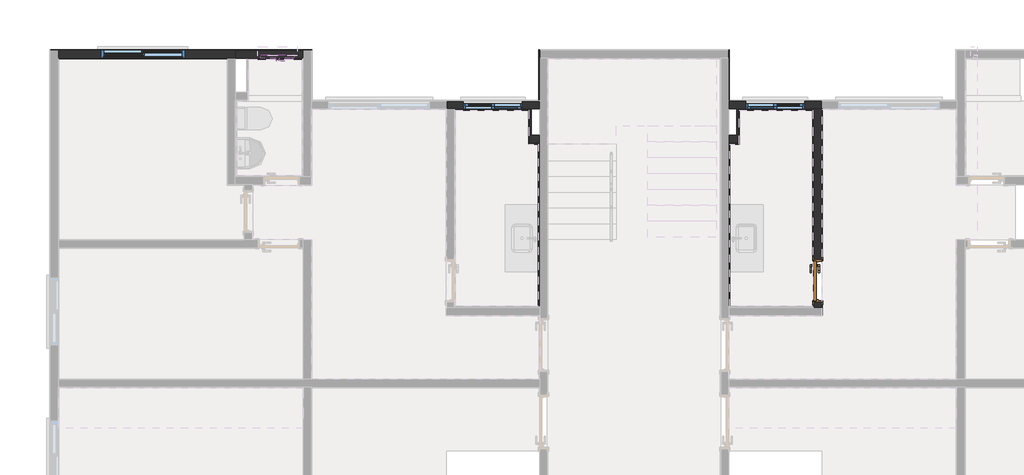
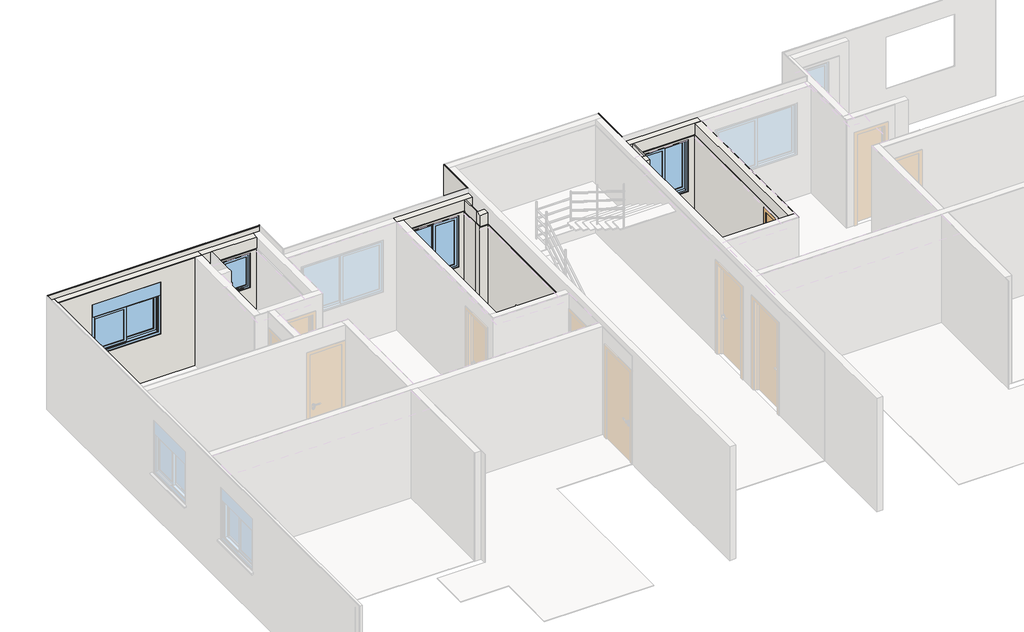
# One storey, part 6 of 11: 26 walls, 4 windows, 1 door.
"""IFC4 building model written with IfcOpenShell, lengths in millimetres."""

from ifc_helpers import new_model, si_unit, frame, origin, origin_with_axes, place, context, project, spatial, polyline, outline, extrude, faceted_brep, transform, mapped, element, save
from components import porta_de_madeira_interna_70_x_210_porta_de_madeira_interna_f307109d, window_105x120_428ac20c, window_105x120_f2d7c1f1, window_150x120_d34a449e, window_60x80_6d4336cf

model = new_model("IFC4")

# Units and contexts
model_context = context("Model", 3, world=origin())
ifc_project = project(units=[si_unit("LENGTHUNIT", "METRE", prefix="MILLI")], contexts=[model_context])

# Site, building, storey
site = spatial("IfcSite", under=ifc_project)
building = spatial("IfcBuilding", under=site)
storey = spatial("IfcBuildingStorey", under=building, Name="Térreo", Elevation=0.0)

# Door
placement = place(None, origin())
porta_de_madeira_interna_70_x_210_porta_de_madeira_interna_shape = porta_de_madeira_interna_70_x_210_porta_de_madeira_interna_f307109d(model_context)
element("IfcDoor", 1, ObjectType="Porta de Madeira Interna 70 x 210 : Porta de Madeira Interna 70 x 210", at=placement, inside=storey, context=model_context, shape_type="MappedRepresentation", body=[
    mapped(porta_de_madeira_interna_70_x_210_porta_de_madeira_interna_shape, transform((13673.8210213, 8221.3603139, 0.0), x_axis=(0.0, -1.0, 0.0), y_axis=(1.0, 0.0, 0.0), z_axis=(0.0, 0.0, 1.0))),
])

# Walls
element("IfcWall", 2, ObjectType="Alvenaria Estrutural", at=placement, inside=storey, context=model_context, shape_type="Brep", body=[
    faceted_brep([(169.9991825, 12180.0252435, 0.0), (175.9991825, 12180.0252435, 0.0), (3179.9977061, 12180.0252435, 0.0), (3319.9977061, 12180.0252435, 0.0), (3319.9977061, 12180.0252435, 2510.0), (3179.9977061, 12180.0252435, 2510.0), (175.9991825, 12180.0252435, 2510.0), (169.9991825, 12180.0252435, 2510.0), (2424.9984443, 12180.0252435, 2200.0), (2424.9984443, 12180.0252435, 1000.0), (924.9984443, 12180.0252435, 1000.0), (924.9984443, 12180.0252435, 2200.0), (3319.9977061, 12320.0252435, 0.0), (169.9991825, 12320.0252435, 0.0), (169.9991825, 12320.0252435, 2510.0), (3319.9977061, 12320.0252435, 2510.0), (2424.9984443, 12320.0252435, 1000.0), (2424.9984443, 12320.0252435, 2200.0), (924.9984443, 12320.0252435, 2200.0), (924.9984443, 12320.0252435, 1000.0), (874.9984443, 12320.0252435, 1000.0), (874.9984443, 12320.0252435, 951.3083694), (2474.9984443, 12320.0252435, 951.3083694), (2474.9984443, 12320.0252435, 1000.0), (2424.9984443, 12222.5252435, 1000.0), (924.9984443, 12222.5252435, 1000.0), (874.9984443, 12222.5252435, 1000.0), (874.9984443, 12222.5252435, 972.0326341), (2474.9984443, 12222.5252435, 972.0326341), (2474.9984443, 12222.5252435, 1000.0)], [[[0, 1, 2, 3, 4, 5, 6, 7], [8, 9, 10, 11]], [[12, 13, 14, 15], [16, 17, 18, 19, 20, 21, 22, 23]], [[1, 0, 13, 12, 3, 2]], [[5, 4, 15, 14, 7, 6]], [[9, 8, 17, 16, 24]], [[8, 11, 18, 17]], [[11, 10, 25, 19, 18]], [[10, 9, 24, 25]], [[21, 20, 26, 27]], [[23, 22, 28, 29]], [[25, 24, 29, 28, 27, 26]], [[20, 19, 25, 26]], [[22, 21, 27, 28]], [[4, 3, 12, 15]], [[0, 7, 14, 13]], [[16, 23, 29, 24]]]),
    faceted_brep([(175.9991825, 12180.0252435, 0.0), (169.9991825, 12180.0252435, 0.0), (169.9991825, 12320.0252435, 0.0), (3319.9977061, 12320.0252435, 0.0), (3319.9977061, 12180.0252435, 0.0), (3179.9977061, 12180.0252435, 0.0), (3179.9977061, 12180.0252435, 2510.0), (3319.9977061, 12180.0252435, 2510.0), (3319.9977061, 12320.0252435, 2510.0), (169.9991825, 12320.0252435, 2510.0), (169.9991825, 12180.0252435, 2510.0), (175.9991825, 12180.0252435, 2510.0), (2424.9984443, 12180.0252435, 1000.0), (2424.9984443, 12180.0252435, 2200.0), (2424.9984443, 12320.0252435, 2200.0), (2424.9984443, 12320.0252435, 1000.0), (2424.9984443, 12222.5252435, 1000.0), (924.9984443, 12180.0252435, 2200.0), (924.9984443, 12320.0252435, 2200.0), (924.9984443, 12180.0252435, 1000.0), (924.9984443, 12222.5252435, 1000.0), (924.9984443, 12320.0252435, 1000.0), (874.9984443, 12320.0252435, 951.3083694), (874.9984443, 12320.0252435, 1000.0), (874.9984443, 12222.5252435, 1000.0), (874.9984443, 12222.5252435, 972.0326341), (2474.9984443, 12320.0252435, 1000.0), (2474.9984443, 12320.0252435, 951.3083694), (2474.9984443, 12222.5252435, 972.0326341), (2474.9984443, 12222.5252435, 1000.0)], [[[0, 1, 2, 3, 4, 5]], [[6, 7, 8, 9, 10, 11]], [[12, 13, 14, 15, 16]], [[13, 17, 18, 14]], [[17, 19, 20, 21, 18]], [[19, 12, 16, 20]], [[22, 23, 24, 25]], [[26, 27, 28, 29]], [[20, 16, 29, 28, 25, 24]], [[23, 21, 20, 24]], [[27, 22, 25, 28]], [[15, 26, 29, 16]], [[3, 2, 9, 8], [15, 14, 18, 21, 23, 22, 27, 26]], [[1, 0, 5, 4, 7, 6, 11, 10], [13, 12, 19, 17]], [[7, 4, 3, 8]], [[1, 10, 9, 2]]]),
])
element("IfcWall", 3, ObjectType="Alvenaria Estrutural", at=placement, inside=storey, context=model_context, shape_type="Brep", body=[
    faceted_brep([(3319.9977061, 12180.025593, 0.0), (3516.99398, 12180.025593, 0.0), (3539.99398, 12180.025593, 0.0), (4509.9990083, 12180.025593, 0.0), (4529.9986472, 12180.025593, 0.0), (4529.9986472, 12180.025593, 2250.0), (4529.9986472, 12180.025593, 2510.0), (3539.99398, 12180.025593, 2510.0), (3516.99398, 12180.025593, 2510.0), (3319.9977061, 12180.025593, 2510.0), (4369.9986472, 12180.025593, 2200.0), (4369.9986472, 12180.025593, 1400.0), (3769.9986472, 12180.025593, 1400.0), (3769.9986472, 12180.025593, 2200.0), (4529.9986472, 12320.025593, 0.0), (3319.9977061, 12320.025593, 0.0), (3319.9977061, 12320.025593, 2510.0), (4529.9986472, 12320.025593, 2510.0), (3719.9986472, 12320.025593, 1351.3083694), (4419.9986472, 12320.025593, 1351.3083694), (4419.9986472, 12320.025593, 1400.0), (4369.9986472, 12320.025593, 1400.0), (4369.9986472, 12320.025593, 2200.0), (3769.9986472, 12320.025593, 2200.0), (3769.9986472, 12320.025593, 1400.0), (3719.9986472, 12320.025593, 1400.0), (3719.9986472, 12222.525593, 1400.0), (3719.9986472, 12222.525593, 1372.0326341), (4419.9986472, 12222.525593, 1372.0326341), (4419.9986472, 12222.525593, 1400.0), (3769.9986472, 12222.525593, 1400.0), (4369.9986472, 12222.525593, 1400.0)], [[[0, 1, 2, 3, 4, 5, 6, 7, 8, 9], [10, 11, 12, 13]], [[14, 15, 16, 17], [18, 19, 20, 21, 22, 23, 24, 25]], [[1, 0, 15, 14, 4, 3, 2]], [[7, 6, 17, 16, 9, 8]], [[18, 25, 26, 27]], [[20, 19, 28, 29]], [[27, 26, 30, 31, 29, 28]], [[25, 24, 30, 26]], [[19, 18, 27, 28]], [[11, 10, 22, 21, 31]], [[10, 13, 23, 22]], [[13, 12, 30, 24, 23]], [[12, 11, 31, 30]], [[0, 9, 16, 15]], [[5, 4, 14, 17, 6]], [[21, 20, 29, 31]]]),
    faceted_brep([(3516.99398, 12180.025593, 0.0), (3319.9977061, 12180.025593, 0.0), (3319.9977061, 12320.025593, 0.0), (4529.9986472, 12320.025593, 0.0), (4529.9986472, 12180.025593, 0.0), (4509.9990083, 12180.025593, 0.0), (3539.99398, 12180.025593, 0.0), (3539.99398, 12180.025593, 2510.0), (4529.9986472, 12180.025593, 2510.0), (4529.9986472, 12320.025593, 2510.0), (3319.9977061, 12320.025593, 2510.0), (3319.9977061, 12180.025593, 2510.0), (3516.99398, 12180.025593, 2510.0), (3719.9986472, 12320.025593, 1351.3083694), (3719.9986472, 12320.025593, 1400.0), (3719.9986472, 12222.525593, 1400.0), (3719.9986472, 12222.525593, 1372.0326341), (4419.9986472, 12320.025593, 1400.0), (4419.9986472, 12320.025593, 1351.3083694), (4419.9986472, 12222.525593, 1372.0326341), (4419.9986472, 12222.525593, 1400.0), (3769.9986472, 12222.525593, 1400.0), (4369.9986472, 12222.525593, 1400.0), (3769.9986472, 12320.025593, 1400.0), (4369.9986472, 12180.025593, 1400.0), (4369.9986472, 12180.025593, 2200.0), (4369.9986472, 12320.025593, 2200.0), (4369.9986472, 12320.025593, 1400.0), (3769.9986472, 12180.025593, 2200.0), (3769.9986472, 12320.025593, 2200.0), (3769.9986472, 12180.025593, 1400.0), (4529.9986472, 12180.025593, 2250.0)], [[[0, 1, 2, 3, 4, 5, 6]], [[7, 8, 9, 10, 11, 12]], [[13, 14, 15, 16]], [[17, 18, 19, 20]], [[16, 15, 21, 22, 20, 19]], [[14, 23, 21, 15]], [[18, 13, 16, 19]], [[24, 25, 26, 27, 22]], [[25, 28, 29, 26]], [[28, 30, 21, 23, 29]], [[30, 24, 22, 21]], [[27, 17, 20, 22]], [[1, 0, 6, 5, 4, 31, 8, 7, 12, 11], [25, 24, 30, 28]], [[3, 2, 10, 9], [13, 18, 17, 27, 26, 29, 23, 14]], [[1, 11, 10, 2]], [[31, 4, 3, 9, 8]]]),
])
element("IfcWall", 4, ObjectType="Alvenaria Estrutural", at=placement, inside=storey, context=model_context, shape_type="Brep", body=[
    faceted_brep([(7079.9990083, 11280.0223004, 0.0), (7212.9986861, 11280.0223004, 0.0), (7233.0017324, 11280.0223004, 0.0), (8556.99867, 11280.0223004, 0.0), (8729.9963008, 11280.0223004, 0.0), (8729.9963008, 11280.0223004, 2510.0), (7212.9986861, 11280.0223004, 2510.0), (7079.9990083, 11280.0223004, 2510.0), (8424.99921, 11280.0223004, 2200.0), (8424.99921, 11280.0223004, 1000.0), (7374.99921, 11280.0223004, 1000.0), (7374.99921, 11280.0223004, 2200.0), (8729.9963008, 11420.0223004, 0.0), (7079.9990083, 11420.0223004, 0.0), (7079.9990083, 11420.0223004, 2510.0), (8729.9963008, 11420.0223004, 2510.0), (8424.99921, 11420.0223004, 1000.0), (8424.99921, 11420.0223004, 2200.0), (7374.99921, 11420.0223004, 2200.0), (7374.99921, 11420.0223004, 1000.0), (7324.99921, 11420.0223004, 1000.0), (7324.99921, 11420.0223004, 951.3083694), (8474.99921, 11420.0223004, 951.3083694), (8474.99921, 11420.0223004, 1000.0), (8424.99921, 11322.5223004, 1000.0), (7374.99921, 11322.5223004, 1000.0), (7324.99921, 11322.5223004, 1000.0), (7324.99921, 11322.5223004, 972.0326341), (8474.99921, 11322.5223004, 972.0326341), (8474.99921, 11322.5223004, 1000.0)], [[[0, 1, 2, 3, 4, 5, 6, 7], [8, 9, 10, 11]], [[12, 13, 14, 15], [16, 17, 18, 19, 20, 21, 22, 23]], [[1, 0, 13, 12, 4, 3, 2]], [[5, 4, 12, 15]], [[6, 5, 15, 14, 7]], [[0, 7, 14, 13]], [[9, 8, 17, 16, 24]], [[8, 11, 18, 17]], [[11, 10, 25, 19, 18]], [[10, 9, 24, 25]], [[21, 20, 26, 27]], [[23, 22, 28, 29]], [[25, 24, 29, 28, 27, 26]], [[20, 19, 25, 26]], [[22, 21, 27, 28]], [[16, 23, 29, 24]]]),
    faceted_brep([(7212.9986861, 11280.0223004, 0.0), (7079.9990083, 11280.0223004, 0.0), (7079.9990083, 11420.0223004, 0.0), (8729.9963008, 11420.0223004, 0.0), (8729.9963008, 11280.0223004, 0.0), (8556.99867, 11280.0223004, 0.0), (7233.0017324, 11280.0223004, 0.0), (8729.9963008, 11280.0223004, 2510.0), (8729.9963008, 11420.0223004, 2510.0), (7212.9986861, 11280.0223004, 2510.0), (7079.9990083, 11420.0223004, 2510.0), (7079.9990083, 11280.0223004, 2510.0), (8424.99921, 11280.0223004, 1000.0), (8424.99921, 11280.0223004, 2200.0), (8424.99921, 11420.0223004, 2200.0), (8424.99921, 11420.0223004, 1000.0), (8424.99921, 11322.5223004, 1000.0), (7374.99921, 11280.0223004, 2200.0), (7374.99921, 11420.0223004, 2200.0), (7374.99921, 11280.0223004, 1000.0), (7374.99921, 11322.5223004, 1000.0), (7374.99921, 11420.0223004, 1000.0), (7324.99921, 11420.0223004, 951.3083694), (7324.99921, 11420.0223004, 1000.0), (7324.99921, 11322.5223004, 1000.0), (7324.99921, 11322.5223004, 972.0326341), (8474.99921, 11420.0223004, 1000.0), (8474.99921, 11420.0223004, 951.3083694), (8474.99921, 11322.5223004, 972.0326341), (8474.99921, 11322.5223004, 1000.0)], [[[0, 1, 2, 3, 4, 5, 6]], [[7, 4, 3, 8]], [[9, 7, 8, 10, 11]], [[1, 11, 10, 2]], [[12, 13, 14, 15, 16]], [[13, 17, 18, 14]], [[17, 19, 20, 21, 18]], [[19, 12, 16, 20]], [[22, 23, 24, 25]], [[26, 27, 28, 29]], [[20, 16, 29, 28, 25, 24]], [[23, 21, 20, 24]], [[27, 22, 25, 28]], [[15, 26, 29, 16]], [[1, 0, 6, 5, 4, 7, 9, 11], [13, 12, 19, 17]], [[3, 2, 10, 8], [15, 14, 18, 21, 23, 22, 27, 26]]]),
])
element("IfcWall", 5, ObjectType="Alvenaria Estrutural", at=placement, inside=storey, context=model_context, shape_type="Brep", body=[
    faceted_brep([(8729.9963008, 10815.0073729, 0.0), (8579.99867, 10815.0073729, 0.0), (8556.99867, 10815.0073729, 0.0), (8556.99867, 10815.0073729, 2510.0), (8579.99867, 10815.0073729, 2510.0), (8729.9963008, 10815.0073729, 2510.0), (8729.9963008, 10675.0073729, 0.0), (8729.9963008, 10675.0073729, 2250.0), (8729.9963008, 10675.0073729, 2510.0), (8556.99867, 10675.0073729, 2510.0), (8556.99867, 10675.0073729, 0.0), (8709.9963008, 10675.0073729, 0.0)], [[[0, 1, 2, 3, 4, 5]], [[6, 7, 8, 9, 10, 11]], [[1, 0, 6, 11, 10, 2]], [[4, 3, 9, 8, 5]], [[3, 2, 10, 9]], [[0, 5, 8, 7, 6]]]),
    faceted_brep([(8729.9963008, 10815.0073729, 0.0), (8579.99867, 10815.0073729, 0.0), (8556.99867, 10815.0073729, 0.0), (8556.99867, 10815.0073729, 2510.0), (8579.99867, 10815.0073729, 2510.0), (8729.9963008, 10815.0073729, 2510.0), (8729.9963008, 10675.0073729, 0.0), (8709.9963008, 10675.0073729, 0.0), (8556.99867, 10675.0073729, 0.0), (8556.99867, 10675.0073729, 2510.0), (8729.9963008, 10675.0073729, 2510.0), (8729.9963008, 10675.0073729, 2250.0)], [[[0, 1, 2, 3, 4, 5]], [[1, 0, 6, 7, 8, 2]], [[4, 3, 9, 10, 5]], [[6, 11, 10, 9, 8, 7]], [[3, 2, 8, 9]], [[0, 5, 10, 11, 6]]]),
])
element("IfcWall", 6, ObjectType="Alvenaria Estrutural", at=placement, inside=storey, context=model_context, shape_type="Brep", body=[
    faceted_brep([(13739.9956991, 11420.0223004, 0.0), (12089.9984066, 11420.0223004, 0.0), (12089.9984066, 11420.0223004, 2510.0), (13739.9956991, 11420.0223004, 2510.0), (12394.9954974, 11420.0223004, 2200.0), (12394.9954974, 11420.0223004, 1000.0), (12344.9954974, 11420.0223004, 1000.0), (12344.9954974, 11420.0223004, 951.3083694), (13494.9954974, 11420.0223004, 951.3083694), (13494.9954974, 11420.0223004, 1000.0), (13444.9954974, 11420.0223004, 1000.0), (13444.9954974, 11420.0223004, 2200.0), (12089.9984066, 11280.0223004, 0.0), (12262.9960374, 11280.0223004, 0.0), (13586.992975, 11280.0223004, 0.0), (13606.9960213, 11280.0223004, 0.0), (13739.9956991, 11280.0223004, 0.0), (13739.9956991, 11280.0223004, 2510.0), (13606.9960213, 11280.0223004, 2510.0), (12089.9984066, 11280.0223004, 2510.0), (12394.9954974, 11280.0223004, 1000.0), (12394.9954974, 11280.0223004, 2200.0), (13444.9954974, 11280.0223004, 2200.0), (13444.9954974, 11280.0223004, 1000.0), (12394.9954974, 11322.5223004, 1000.0), (13444.9954974, 11322.5223004, 1000.0), (13494.9954974, 11322.5223004, 972.0326341), (13494.9954974, 11322.5223004, 1000.0), (12344.9954974, 11322.5223004, 1000.0), (12344.9954974, 11322.5223004, 972.0326341)], [[[0, 1, 2, 3], [4, 5, 6, 7, 8, 9, 10, 11]], [[12, 13, 14, 15, 16, 17, 18, 19], [20, 21, 22, 23]], [[1, 0, 16, 15, 14, 13, 12]], [[2, 1, 12, 19]], [[3, 2, 19, 18, 17]], [[0, 3, 17, 16]], [[5, 4, 21, 20, 24]], [[4, 11, 22, 21]], [[11, 10, 25, 23, 22]], [[20, 23, 25, 24]], [[9, 8, 26, 27]], [[7, 6, 28, 29]], [[24, 25, 27, 26, 29, 28]], [[10, 9, 27, 25]], [[8, 7, 29, 26]], [[6, 5, 24, 28]]]),
    faceted_brep([(12089.9984066, 11420.0223004, 0.0), (13739.9956991, 11420.0223004, 0.0), (13739.9956991, 11280.0223004, 0.0), (13606.9960213, 11280.0223004, 0.0), (13586.992975, 11280.0223004, 0.0), (12262.9960374, 11280.0223004, 0.0), (12089.9984066, 11280.0223004, 0.0), (12089.9984066, 11420.0223004, 2510.0), (12089.9984066, 11280.0223004, 2510.0), (13739.9956991, 11420.0223004, 2510.0), (13606.9960213, 11280.0223004, 2510.0), (13739.9956991, 11280.0223004, 2510.0), (12394.9954974, 11420.0223004, 1000.0), (12394.9954974, 11420.0223004, 2200.0), (12394.9954974, 11280.0223004, 2200.0), (12394.9954974, 11280.0223004, 1000.0), (12394.9954974, 11322.5223004, 1000.0), (13444.9954974, 11420.0223004, 2200.0), (13444.9954974, 11280.0223004, 2200.0), (13444.9954974, 11420.0223004, 1000.0), (13444.9954974, 11322.5223004, 1000.0), (13444.9954974, 11280.0223004, 1000.0), (13494.9954974, 11420.0223004, 1000.0), (13494.9954974, 11420.0223004, 951.3083694), (13494.9954974, 11322.5223004, 972.0326341), (13494.9954974, 11322.5223004, 1000.0), (12344.9954974, 11420.0223004, 951.3083694), (12344.9954974, 11420.0223004, 1000.0), (12344.9954974, 11322.5223004, 1000.0), (12344.9954974, 11322.5223004, 972.0326341)], [[[0, 1, 2, 3, 4, 5, 6]], [[7, 0, 6, 8]], [[9, 7, 8, 10, 11]], [[1, 9, 11, 2]], [[12, 13, 14, 15, 16]], [[13, 17, 18, 14]], [[17, 19, 20, 21, 18]], [[15, 21, 20, 16]], [[22, 23, 24, 25]], [[26, 27, 28, 29]], [[16, 20, 25, 24, 29, 28]], [[19, 22, 25, 20]], [[23, 26, 29, 24]], [[27, 12, 16, 28]], [[1, 0, 7, 9], [13, 12, 27, 26, 23, 22, 19, 17]], [[6, 5, 4, 3, 2, 11, 10, 8], [15, 14, 18, 21]]]),
])
element("IfcWall", 7, ObjectType="Alvenaria Estrutural", at=placement, inside=storey, context=model_context, shape_type="Brep", body=[
    faceted_brep([(12089.9984066, 10675.0073729, 0.0), (12109.9984066, 10675.0073729, 0.0), (12262.9960374, 10675.0073729, 0.0), (12262.9960374, 10675.0073729, 2510.0), (12089.9984066, 10675.0073729, 2510.0), (12089.9984066, 10675.0073729, 2250.0), (12089.9984066, 10815.0073729, 0.0), (12089.9984066, 10815.0073729, 2510.0), (12239.9960374, 10815.0073729, 2510.0), (12262.9960374, 10815.0073729, 2510.0), (12262.9960374, 10815.0073729, 0.0), (12239.9960374, 10815.0073729, 0.0)], [[[0, 1, 2, 3, 4, 5]], [[6, 7, 8, 9, 10, 11]], [[1, 0, 6, 11, 10, 2]], [[4, 3, 9, 8, 7]], [[3, 2, 10, 9]], [[5, 4, 7, 6, 0]]]),
    faceted_brep([(12089.9984066, 10675.0073729, 0.0), (12109.9984066, 10675.0073729, 0.0), (12262.9960374, 10675.0073729, 0.0), (12262.9960374, 10675.0073729, 2510.0), (12089.9984066, 10675.0073729, 2510.0), (12089.9984066, 10675.0073729, 2250.0), (12089.9984066, 10815.0073729, 0.0), (12239.9960374, 10815.0073729, 0.0), (12262.9960374, 10815.0073729, 0.0), (12262.9960374, 10815.0073729, 2510.0), (12239.9960374, 10815.0073729, 2510.0), (12089.9984066, 10815.0073729, 2510.0)], [[[0, 1, 2, 3, 4, 5]], [[1, 0, 6, 7, 8, 2]], [[4, 3, 9, 10, 11]], [[6, 11, 10, 9, 8, 7]], [[3, 2, 8, 9]], [[5, 4, 11, 6, 0]]]),
])
element("IfcWall", 8, ObjectType="Alvenaria Estrutural", at=placement, inside=storey, context=model_context, shape_type="Brep", body=[
    faceted_brep([(13606.9960213, 7746.3603139, 2510.0), (13606.9960213, 11280.0223004, 2510.0), (13606.9960213, 11280.0223004, 2250.0), (13606.9960213, 11280.0223004, 0.0), (13606.9960213, 11260.0223004, 0.0), (13606.9960213, 8596.3603139, 0.0), (13606.9960213, 8596.3603139, 2125.0), (13606.9960213, 7846.3603139, 2125.0), (13606.9960213, 7846.3603139, 0.0), (13606.9960213, 7766.3603139, 0.0), (13606.9960213, 7746.3603139, 0.0), (13606.9960213, 7746.3603139, 2250.0), (13746.9960213, 11280.0223004, 2510.0), (13746.9960213, 11274.0223004, 2510.0), (13746.9960213, 7746.3603139, 2510.0), (13746.9960213, 7746.3603139, 0.0), (13746.9960213, 7846.3603139, 0.0), (13746.9960213, 7846.3603139, 2125.0), (13746.9960213, 8596.3603139, 2125.0), (13746.9960213, 8596.3603139, 0.0), (13746.9960213, 11274.0223004, 0.0), (13746.9960213, 11280.0223004, 0.0), (13739.9956991, 11280.0223004, 0.0), (13739.9956991, 11280.0223004, 2510.0)], [[[0, 1, 2, 3, 4, 5, 6, 7, 8, 9, 10, 11]], [[12, 13, 14, 15, 16, 17, 18, 19, 20, 21]], [[4, 3, 22, 21, 20, 19, 5]], [[1, 0, 14, 13, 12, 23]], [[8, 7, 17, 16]], [[7, 6, 18, 17]], [[6, 5, 19, 18]], [[11, 10, 15, 14, 0]], [[2, 1, 23, 12, 21, 22, 3]], [[9, 8, 16, 15, 10]]]),
])
element("IfcWall", 9, ObjectType="Azulejo", at=placement, inside=storey, context=model_context, shape_type="SweptSolid", body=[
    extrude(outline(polyline([(8709.9963008, 7746.3603139), (8709.9963008, 10675.0073729), (8719.9963008, 10675.0073729), (8719.9963008, 7746.3603139), (8709.9963008, 7746.3603139)])), origin_with_axes(), (0.0, 0.0, 1.0), 2250.0),
    extrude(outline(polyline([(8729.9963008, 10675.0073729), (8729.9963008, 7746.3603139), (8719.9963008, 7746.3603139), (8719.9963008, 10675.0073729), (8729.9963008, 10675.0073729)])), origin_with_axes(), (0.0, 0.0, 1.0), 2250.0),
])
element("IfcWall", 10, ObjectType="Azulejo", at=placement, inside=storey, context=model_context, shape_type="SolidModel", body=[
    extrude(outline(polyline([(8729.9963008, 10655.0073729), (8536.99631, 10655.0073729), (8536.99631, 10665.0073729), (8729.9963008, 10665.0073729), (8729.9963008, 10655.0073729)])), origin_with_axes(), (0.0, 0.0, 1.0), 2250.0),
    faceted_brep([(8546.99631, 10665.0073729, 0.0), (8729.9963008, 10665.0073729, 0.0), (8729.9963008, 10665.0073729, 2250.0), (8546.99631, 10665.0073729, 2250.0), (8546.99631, 10675.0073729, 0.0), (8546.99631, 10675.0073729, 2250.0), (8556.99631, 10675.0073729, 2250.0), (8729.9963008, 10675.0073729, 2250.0), (8729.9963008, 10675.0073729, 0.0), (8556.99631, 10675.0073729, 0.0)], [[[0, 1, 2, 3]], [[4, 5, 6, 7, 8, 9]], [[9, 8, 1, 0, 4]], [[6, 5, 3, 2, 7]], [[8, 7, 2, 1]], [[5, 4, 0, 3]]]),
])
element("IfcWall", 11, ObjectType="Azulejo", at=placement, inside=storey, context=model_context, shape_type="SolidModel", body=[
    faceted_brep([(8536.99631, 11260.0223004, 0.0), (7212.9986861, 11260.0223004, 0.0), (7212.9986861, 11270.0223004, 0.0), (8556.99867, 11270.0223004, 0.0), (8556.99867, 11260.0223004, 0.0), (8546.99631, 11260.0223004, 0.0), (8546.99631, 11260.0223004, 2250.0), (8556.99867, 11260.0223004, 2250.0), (8556.99867, 11270.0223004, 2250.0), (7212.9986861, 11270.0223004, 2250.0), (7212.9986861, 11260.0223004, 2250.0), (8536.99631, 11260.0223004, 2250.0), (8424.99921, 11260.0223004, 1000.0), (8424.99921, 11260.0223004, 2200.0), (8424.99921, 11270.0223004, 2200.0), (8424.99921, 11270.0223004, 1000.0), (7374.99921, 11260.0223004, 2200.0), (7374.99921, 11270.0223004, 2200.0), (7374.99921, 11260.0223004, 1000.0), (7374.99921, 11270.0223004, 1000.0)], [[[0, 1, 2, 3, 4, 5]], [[6, 7, 8, 9, 10, 11]], [[12, 13, 14, 15]], [[13, 16, 17, 14]], [[16, 18, 19, 17]], [[18, 12, 15, 19]], [[1, 10, 9, 2]], [[7, 4, 3, 8]], [[3, 2, 9, 8], [15, 14, 17, 19]], [[1, 0, 5, 4, 7, 6, 11, 10], [12, 18, 16, 13]]]),
    extrude(outline(polyline([(0.0, 7212.9986861), (0.0, 8556.99867), (2250.0, 8556.99867), (2250.0, 7212.9986861), (0.0, 7212.9986861)]), holes=[polyline([(2200.0, 8424.99921), (1000.0, 8424.99921), (1000.0, 7374.99921), (2200.0, 7374.99921), (2200.0, 8424.99921)])]), frame((0.0, 11270.0223004, 0.0), z_axis=(0.0, 1.0, 0.0), x_axis=(0.0, 0.0, 1.0)), (0.0, 0.0, 1.0), 10.0),
])
element("IfcWall", 12, ObjectType="Azulejo", at=placement, inside=storey, context=model_context, shape_type="SweptSolid", body=[
    extrude(outline(polyline([(8536.99631, 10665.0073729), (8536.99631, 10815.0073729), (8546.99631, 10815.0073729), (8546.99631, 10665.0073729), (8536.99631, 10665.0073729)])), origin_with_axes(), (0.0, 0.0, 1.0), 2250.0),
    extrude(outline(polyline([(8556.99631, 10815.0073729), (8556.99631, 10675.0073729), (8546.99631, 10675.0073729), (8546.99631, 10815.0073729), (8556.99631, 10815.0073729)])), origin_with_axes(), (0.0, 0.0, 1.0), 2250.0),
])
element("IfcWall", 13, ObjectType="Azulejo", at=placement, inside=storey, context=model_context, shape_type="SolidModel", body=[
    faceted_brep([(3549.99398, 12160.025593, 0.0), (3539.99398, 12160.025593, 0.0), (3539.99398, 12170.025593, 0.0), (4509.9990083, 12170.025593, 0.0), (4509.9990083, 12160.025593, 0.0), (3549.99398, 12160.025593, 2250.0), (4509.9990083, 12160.025593, 2250.0), (4509.9990083, 12170.025593, 2250.0), (3539.99398, 12170.025593, 2250.0), (3539.99398, 12160.025593, 2250.0), (4369.9986472, 12160.025593, 1400.0), (4369.9986472, 12160.025593, 2200.0), (4369.9986472, 12170.025593, 2200.0), (4369.9986472, 12170.025593, 1400.0), (3769.9986472, 12160.025593, 2200.0), (3769.9986472, 12170.025593, 2200.0), (3769.9986472, 12160.025593, 1400.0), (3769.9986472, 12170.025593, 1400.0)], [[[0, 1, 2, 3, 4]], [[5, 6, 7, 8, 9]], [[10, 11, 12, 13]], [[11, 14, 15, 12]], [[14, 16, 17, 15]], [[16, 10, 13, 17]], [[6, 4, 3, 7]], [[1, 9, 8, 2]], [[3, 2, 8, 7], [13, 12, 15, 17]], [[4, 6, 5, 9, 1, 0], [10, 16, 14, 11]]]),
    extrude(outline(polyline([(0.0, 3539.99398), (0.0, 4519.9990083), (2250.0, 4519.9990083), (2250.0, 3539.99398), (0.0, 3539.99398)]), holes=[polyline([(2200.0, 4369.9986472), (1400.0, 4369.9986472), (1400.0, 3769.9986472), (2200.0, 3769.9986472), (2200.0, 4369.9986472)])]), frame((0.0, 12170.025593, 0.0), z_axis=(0.0, 1.0, 0.0), x_axis=(0.0, 0.0, 1.0)), (0.0, 0.0, 1.0), 10.0),
])
element("IfcWall", 14, ObjectType="Azulejo", at=placement, inside=storey, context=model_context, shape_type="SweptSolid", body=[
    extrude(outline(polyline([(7746.3603139, 2250.0), (11280.0223004, 2250.0), (11280.0223004, 0.0), (8596.3603139, 0.0), (8596.3603139, 2125.0), (7846.3603139, 2125.0), (7846.3603139, 0.0), (7746.3603139, 0.0), (7746.3603139, 2250.0)])), frame((13586.992975, 0.0, 0.0), z_axis=(1.0, 0.0, 0.0), x_axis=(0.0, 1.0, 0.0)), (0.0, 0.0, 1.0), 10.0),
    extrude(outline(polyline([(11280.0223004, 0.0), (8596.3603139, 0.0), (8596.3603139, 2125.0), (7846.3603139, 2125.0), (7846.3603139, 0.0), (7746.3603139, 0.0), (7746.3603139, 2250.0), (11280.0223004, 2250.0), (11280.0223004, 0.0)])), frame((13596.992975, 0.0, 0.0), z_axis=(1.0, 0.0, 0.0), x_axis=(0.0, 1.0, 0.0)), (0.0, 0.0, 1.0), 10.0),
])
element("IfcWall", 15, ObjectType="Azulejo", at=placement, inside=storey, context=model_context, shape_type="SweptSolid", body=[
    extrude(outline(polyline([(12109.9984066, 10675.0073729), (12109.9984066, 7746.3603139), (12099.9984066, 7746.3603139), (12099.9984066, 10675.0073729), (12109.9984066, 10675.0073729)])), origin_with_axes(), (0.0, 0.0, 1.0), 2250.0),
    extrude(outline(polyline([(12089.9984066, 7746.3603139), (12089.9984066, 10675.0073729), (12099.9984066, 10675.0073729), (12099.9984066, 7746.3603139), (12089.9984066, 7746.3603139)])), origin_with_axes(), (0.0, 0.0, 1.0), 2250.0),
])
element("IfcWall", 16, ObjectType="Azulejo", at=placement, inside=storey, context=model_context, shape_type="SolidModel", body=[
    extrude(outline(polyline([(12282.9983974, 10655.0073729), (12089.9984066, 10655.0073729), (12089.9984066, 10665.0073729), (12282.9983974, 10665.0073729), (12282.9983974, 10655.0073729)])), origin_with_axes(), (0.0, 0.0, 1.0), 2250.0),
    faceted_brep([(12089.9984066, 10665.0073729, 0.0), (12272.9983974, 10665.0073729, 0.0), (12272.9983974, 10665.0073729, 2250.0), (12089.9984066, 10665.0073729, 2250.0), (12272.9983974, 10675.0073729, 0.0), (12262.9983974, 10675.0073729, 0.0), (12089.9984066, 10675.0073729, 0.0), (12089.9984066, 10675.0073729, 2250.0), (12262.9983974, 10675.0073729, 2250.0), (12272.9983974, 10675.0073729, 2250.0)], [[[0, 1, 2, 3]], [[4, 5, 6, 7, 8, 9]], [[5, 4, 1, 0, 6]], [[8, 7, 3, 2, 9]], [[7, 6, 0, 3]], [[4, 9, 2, 1]]]),
])
element("IfcWall", 17, ObjectType="Azulejo", at=placement, inside=storey, context=model_context, shape_type="SolidModel", body=[
    faceted_brep([(12272.9983974, 11260.0223004, 0.0), (12262.9960374, 11260.0223004, 0.0), (12262.9960374, 11270.0223004, 0.0), (13606.9960213, 11270.0223004, 0.0), (13606.9960213, 11260.0223004, 0.0), (12282.9983974, 11260.0223004, 0.0), (12282.9983974, 11260.0223004, 2250.0), (13606.9960213, 11260.0223004, 2250.0), (13606.9960213, 11270.0223004, 2250.0), (12262.9960374, 11270.0223004, 2250.0), (12262.9960374, 11260.0223004, 2250.0), (12272.9983974, 11260.0223004, 2250.0), (12394.9954974, 11260.0223004, 2200.0), (12394.9954974, 11260.0223004, 1000.0), (12394.9954974, 11270.0223004, 1000.0), (12394.9954974, 11270.0223004, 2200.0), (13444.9954974, 11260.0223004, 2200.0), (13444.9954974, 11270.0223004, 2200.0), (13444.9954974, 11260.0223004, 1000.0), (13444.9954974, 11270.0223004, 1000.0)], [[[0, 1, 2, 3, 4, 5]], [[6, 7, 8, 9, 10, 11]], [[12, 13, 14, 15]], [[16, 12, 15, 17]], [[18, 16, 17, 19]], [[13, 18, 19, 14]], [[7, 4, 3, 8]], [[1, 10, 9, 2]], [[3, 2, 9, 8], [15, 14, 19, 17]], [[4, 7, 6, 11, 10, 1, 0, 5], [13, 12, 16, 18]]]),
    extrude(outline(polyline([(0.0, 12262.9960374), (0.0, 13606.9960213), (2250.0, 13606.9960213), (2250.0, 12262.9960374), (0.0, 12262.9960374)]), holes=[polyline([(1000.0, 12394.9954974), (2200.0, 12394.9954974), (2200.0, 13444.9954974), (1000.0, 13444.9954974), (1000.0, 12394.9954974)])]), frame((0.0, 11270.0223004, 0.0), z_axis=(0.0, 1.0, 0.0), x_axis=(0.0, 0.0, 1.0)), (0.0, 0.0, 1.0), 10.0),
])
element("IfcWall", 18, ObjectType="Azulejo", at=placement, inside=storey, context=model_context, shape_type="SweptSolid", body=[
    extrude(outline(polyline([(12282.9983974, 10815.0073729), (12282.9983974, 10665.0073729), (12272.9983974, 10665.0073729), (12272.9983974, 10815.0073729), (12282.9983974, 10815.0073729)])), origin_with_axes(), (0.0, 0.0, 1.0), 2250.0),
    extrude(outline(polyline([(12262.9983974, 10675.0073729), (12262.9983974, 10815.0073729), (12272.9983974, 10815.0073729), (12272.9983974, 10675.0073729), (12262.9983974, 10675.0073729)])), origin_with_axes(), (0.0, 0.0, 1.0), 2250.0),
])
element("IfcWall", 19, ObjectType="Azulejo - Shaft", at=placement, inside=storey, context=model_context, shape_type="SweptSolid", body=[
    extrude(outline(polyline([(8536.99631, 10815.0073729), (8536.99631, 11260.0223004), (8546.99631, 11260.0223004), (8546.99631, 10815.0073729), (8536.99631, 10815.0073729)])), origin_with_axes(), (0.0, 0.0, 1.0), 2250.0),
])
element("IfcWall", 20, ObjectType="Azulejo - Shaft", at=placement, inside=storey, context=model_context, shape_type="SweptSolid", body=[
    extrude(outline(polyline([(12272.9983974, 10815.0073729), (12272.9983974, 11260.0223004), (12282.9983974, 11260.0223004), (12282.9983974, 10815.0073729), (12272.9983974, 10815.0073729)])), origin_with_axes(), (0.0, 0.0, 1.0), 2250.0),
])
element("IfcWall", 21, ObjectType="Gesso Liso + Pintura", at=placement, inside=storey, context=model_context, shape_type="SolidModel", body=[
    faceted_brep([(3173.9976538, 12174.0253822, 0.0), (175.9991825, 12174.0253822, 0.0), (175.9991825, 12175.0253822, 0.0), (3174.9976538, 12175.0253822, 0.0), (3174.9976538, 12174.0253822, 0.0), (175.9991825, 12175.0253822, 2510.0), (175.9991825, 12174.0253822, 2510.0), (3173.9976538, 12174.0253822, 2510.0), (3174.9976538, 12174.0253822, 2510.0), (3174.9976538, 12175.0253822, 2510.0), (2424.9984443, 12174.0253822, 1000.0), (2424.9984443, 12174.0253822, 2200.0), (2424.9984443, 12175.0253822, 2200.0), (2424.9984443, 12175.0253822, 1000.0), (924.9984443, 12174.0253822, 2200.0), (924.9984443, 12175.0253822, 2200.0), (924.9984443, 12174.0253822, 1000.0), (924.9984443, 12175.0253822, 1000.0)], [[[0, 1, 2, 3, 4]], [[5, 6, 7, 8, 9]], [[10, 11, 12, 13]], [[12, 11, 14, 15]], [[15, 14, 16, 17]], [[10, 13, 17, 16]], [[2, 1, 6, 5]], [[2, 5, 9, 3], [13, 12, 15, 17]], [[1, 0, 4, 8, 7, 6], [11, 10, 16, 14]], [[4, 3, 9, 8]]]),
    extrude(outline(polyline([(0.0, 174.9991825), (0.0, 3179.9977061), (2510.0, 3179.9977061), (2510.0, 174.9991825), (0.0, 174.9991825)]), holes=[polyline([(2200.0, 2424.9984443), (1000.0, 2424.9984443), (1000.0, 924.9984443), (2200.0, 924.9984443), (2200.0, 2424.9984443)])]), frame((0.0, 12175.0253822, 0.0), z_axis=(0.0, 1.0, 0.0), x_axis=(0.0, 0.0, 1.0)), (0.0, 0.0, 1.0), 5.0),
])
element("IfcWall", 22, ObjectType="Gesso Liso + Pintura", at=placement, inside=storey, context=model_context, shape_type="SolidModel", body=[
    extrude(outline(polyline([(7846.3603139, 0.0), (7601.3603139, 0.0), (7601.3603139, 2510.0), (11280.0223004, 2510.0), (11280.0223004, 0.0), (8596.3603139, 0.0), (8596.3603139, 2125.0), (7846.3603139, 2125.0), (7846.3603139, 0.0)])), frame((13751.9960213, 0.0, 0.0), z_axis=(1.0, 0.0, 0.0), x_axis=(0.0, 1.0, 0.0)), (0.0, 0.0, 1.0), 1.0),
    faceted_brep([(13751.9960213, 7606.3603139, 0.0), (13751.9960213, 7846.3603139, 0.0), (13751.9960213, 7846.3603139, 2125.0), (13751.9960213, 8596.3603139, 2125.0), (13751.9960213, 8596.3603139, 0.0), (13751.9960213, 11280.0223004, 0.0), (13751.9960213, 11280.0223004, 2510.0), (13751.9960213, 7606.3603139, 2510.0), (13746.9960213, 7606.3603139, 2510.0), (13746.9960213, 7746.3603139, 2510.0), (13746.9960213, 11280.0223004, 2510.0), (13746.9960213, 11280.0223004, 0.0), (13746.9960213, 8596.3603139, 0.0), (13746.9960213, 8596.3603139, 2125.0), (13746.9960213, 7846.3603139, 2125.0), (13746.9960213, 7846.3603139, 0.0), (13746.9960213, 7746.3603139, 0.0), (13746.9960213, 7606.3603139, 0.0)], [[[0, 1, 2, 3, 4, 5, 6, 7]], [[8, 9, 10, 11, 12, 13, 14, 15, 16, 17]], [[16, 15, 1, 0, 17]], [[9, 8, 7, 6, 10]], [[15, 14, 2, 1]], [[14, 13, 3, 2]], [[13, 12, 4, 3]], [[8, 17, 0, 7]], [[11, 10, 6, 5]], [[12, 11, 5, 4]]]),
])
element("IfcWall", 23, ObjectType="Reboco + Pintura Externa", at=placement, inside=storey, context=model_context, shape_type="SolidModel", body=[
    extrude(outline(polyline([(0.0, 14.9976538), (0.0, 4685.9976538), (2630.0, 4685.9976538), (2630.0, 14.9976538), (0.0, 14.9976538)]), holes=[polyline([(2200.0, 2424.9984443), (1000.0, 2424.9984443), (1000.0, 924.9984443), (2200.0, 924.9984443), (2200.0, 2424.9984443)]), polyline([(2200.0, 4369.9986472), (1400.0, 4369.9986472), (1400.0, 3769.9986472), (2200.0, 3769.9986472), (2200.0, 4369.9986472)])]), frame((0.0, 12334.9952456, 0.0), z_axis=(0.0, 1.0, 0.0), x_axis=(0.0, 0.0, 1.0)), (0.0, 0.0, 1.0), 1.0),
    faceted_brep([(4674.9976538, 12324.9952456, 0.0), (29.9976538, 12324.9952456, 0.0), (29.9976538, 12324.9952456, 2630.0), (4674.9976538, 12324.9952456, 2630.0), (2424.9984443, 12324.9952456, 1000.0), (2424.9984443, 12324.9952456, 2200.0), (924.9984443, 12324.9952456, 2200.0), (924.9984443, 12324.9952456, 1000.0), (4369.9986472, 12324.9952456, 1400.0), (4369.9986472, 12324.9952456, 2200.0), (3769.9986472, 12324.9952456, 2200.0), (3769.9986472, 12324.9952456, 1400.0), (3319.9977061, 12319.9952456, 0.0), (29.9976538, 12319.9952456, 0.0), (4674.9976538, 12319.9952456, 0.0), (4669.9976538, 12319.9952456, 0.0), (4529.9986472, 12319.9952456, 0.0), (4669.9976538, 12319.9952456, 2630.0), (4674.9976538, 12319.9952456, 2630.0), (29.9976538, 12319.9952456, 2630.0), (4369.9986472, 12319.9952456, 1400.0), (4369.9986472, 12319.9952456, 2200.0), (3769.9986472, 12319.9952456, 2200.0), (3769.9986472, 12319.9952456, 1400.0), (2424.9984443, 12319.9952456, 1000.0), (2424.9984443, 12319.9952456, 2200.0), (924.9984443, 12319.9952456, 2200.0), (924.9984443, 12319.9952456, 1000.0)], [[[0, 1, 2, 3], [4, 5, 6, 7], [8, 9, 10, 11]], [[12, 13, 1, 0, 14, 15, 16]], [[17, 18, 3, 2, 19]], [[20, 21, 9, 8]], [[21, 22, 10, 9]], [[22, 23, 11, 10]], [[23, 20, 8, 11]], [[24, 25, 5, 4]], [[25, 26, 6, 5]], [[26, 27, 7, 6]], [[27, 24, 4, 7]], [[13, 19, 2, 1]], [[13, 12, 16, 15, 14, 18, 17, 19], [20, 23, 22, 21], [24, 27, 26, 25]], [[18, 14, 0, 3]]]),
    extrude(outline(polyline([(0.0, 24.9976538), (0.0, 4684.9976538), (2630.0, 4684.9976538), (2630.0, 24.9976538), (0.0, 24.9976538)]), holes=[polyline([(2200.0, 2424.9984443), (1000.0, 2424.9984443), (1000.0, 924.9984443), (2200.0, 924.9984443), (2200.0, 2424.9984443)]), polyline([(2200.0, 4369.9986472), (1400.0, 4369.9986472), (1400.0, 3769.9986472), (2200.0, 3769.9986472), (2200.0, 4369.9986472)])]), frame((0.0, 12324.9952456, 0.0), z_axis=(0.0, 1.0, 0.0), x_axis=(0.0, 0.0, 1.0)), (0.0, 0.0, 1.0), 10.0),
])
element("IfcWall", 24, ObjectType="Reboco + Pintura Externa", at=placement, inside=storey, context=model_context, shape_type="SolidModel", body=[
    extrude(outline(polyline([(8713.9963008, 11436.0223004), (8713.9963008, 12335.9995833), (8714.9963008, 12335.9995833), (8714.9963008, 11436.0223004), (8713.9963008, 11436.0223004)])), origin_with_axes(), (0.0, 0.0, 1.0), 2630.0),
    faceted_brep([(8724.9963008, 12324.9995833, 0.0), (8724.9963008, 11435.0223004, 0.0), (8724.9963008, 11435.0223004, 2630.0), (8724.9963008, 12324.9995833, 2630.0), (8729.9963008, 12319.9995833, 0.0), (8729.9963008, 11435.0223004, 0.0), (8729.9963008, 12324.9995833, 0.0), (8729.9963008, 12319.9995833, 2630.0), (8729.9963008, 12324.9995833, 2630.0), (8729.9963008, 11435.0223004, 2630.0)], [[[0, 1, 2, 3]], [[4, 5, 1, 0, 6]], [[7, 8, 3, 2, 9]], [[5, 4, 6, 8, 7, 9]], [[5, 9, 2, 1]], [[8, 6, 0, 3]]]),
    extrude(outline(polyline([(8724.9963008, 11435.0223004), (8714.9963008, 11435.0223004), (8714.9963008, 12334.9995833), (8724.9963008, 12334.9995833), (8724.9963008, 11435.0223004)])), origin_with_axes(), (0.0, 0.0, 1.0), 2630.0),
])
element("IfcWall", 25, ObjectType="Reboco + Pintura Externa", at=placement, inside=storey, context=model_context, shape_type="SweptSolid", body=[
    extrude(outline(polyline([(12105.9984066, 12334.9995833), (12105.9984066, 11436.0223004), (12104.9984066, 11436.0223004), (12104.9984066, 12334.9995833), (12105.9984066, 12334.9995833)])), origin_with_axes(), (0.0, 0.0, 1.0), 2630.0),
    extrude(outline(polyline([(12089.9984066, 11425.0223004), (12089.9984066, 12319.9995833), (12094.9984066, 12319.9995833), (12094.9984066, 11425.0223004), (12089.9984066, 11425.0223004)])), origin_with_axes(), (0.0, 0.0, 1.0), 2630.0),
    extrude(outline(polyline([(12094.9984066, 12324.9995833), (12104.9984066, 12324.9995833), (12104.9984066, 11435.0223004), (12094.9984066, 11435.0223004), (12094.9984066, 12324.9995833)])), origin_with_axes(), (0.0, 0.0, 1.0), 2630.0),
])
element("IfcWall", 26, ObjectType="Shaft Drywall", at=placement, inside=storey, context=model_context, shape_type="Brep", body=[
    faceted_brep([(8556.99867, 11280.0223004, 0.0), (8556.99867, 11260.0223004, 0.0), (8556.99867, 10815.0073729, 0.0), (8556.99867, 10815.0073729, 2510.0), (8556.99867, 11280.0223004, 2510.0), (8556.99867, 11280.0223004, 2250.0), (8579.99867, 11280.0223004, 0.0), (8579.99867, 11280.0223004, 2510.0), (8579.99867, 10815.0073729, 2510.0), (8579.99867, 10815.0073729, 0.0)], [[[0, 1, 2, 3, 4, 5]], [[6, 7, 8, 9]], [[1, 0, 6, 9, 2]], [[4, 3, 8, 7]], [[5, 4, 7, 6, 0]], [[3, 2, 9, 8]]]),
    faceted_brep([(8579.99867, 11280.0223004, 0.0), (8579.99867, 11280.0223004, 2510.0), (8579.99867, 10815.0073729, 2510.0), (8579.99867, 10815.0073729, 0.0), (8556.99867, 11260.0223004, 0.0), (8556.99867, 11280.0223004, 0.0), (8556.99867, 10815.0073729, 0.0), (8556.99867, 11280.0223004, 2510.0), (8556.99867, 10815.0073729, 2510.0), (8556.99867, 11280.0223004, 2250.0)], [[[0, 1, 2, 3]], [[4, 5, 0, 3, 6]], [[7, 8, 2, 1]], [[9, 7, 1, 0, 5]], [[5, 4, 6, 8, 7, 9]], [[8, 6, 3, 2]]]),
])
element("IfcWall", 27, ObjectType="Shaft Drywall", at=placement, inside=storey, context=model_context, shape_type="Brep", body=[
    faceted_brep([(12239.9960374, 11280.0223004, 0.0), (12239.9960374, 10815.0073729, 0.0), (12239.9960374, 10815.0073729, 2510.0), (12239.9960374, 11280.0223004, 2510.0), (12262.9960374, 11280.0223004, 0.0), (12262.9960374, 11280.0223004, 2250.0), (12262.9960374, 11280.0223004, 2510.0), (12262.9960374, 10815.0073729, 2510.0), (12262.9960374, 10815.0073729, 0.0), (12262.9960374, 11260.0223004, 0.0)], [[[0, 1, 2, 3]], [[4, 5, 6, 7, 8, 9]], [[1, 0, 4, 9, 8]], [[3, 2, 7, 6]], [[0, 3, 6, 5, 4]], [[2, 1, 8, 7]]]),
    faceted_brep([(12262.9960374, 11280.0223004, 0.0), (12262.9960374, 11280.0223004, 2250.0), (12262.9960374, 11280.0223004, 2510.0), (12262.9960374, 10815.0073729, 2510.0), (12262.9960374, 10815.0073729, 0.0), (12262.9960374, 11260.0223004, 0.0), (12239.9960374, 10815.0073729, 0.0), (12239.9960374, 11280.0223004, 0.0), (12239.9960374, 11280.0223004, 2510.0), (12239.9960374, 10815.0073729, 2510.0)], [[[0, 1, 2, 3, 4, 5]], [[6, 7, 0, 5, 4]], [[8, 9, 3, 2]], [[7, 8, 2, 1, 0]], [[7, 6, 9, 8]], [[9, 6, 4, 3]]]),
])

# Windows
window_105x120_shape = window_105x120_428ac20c(model_context)
element("IfcWindow", 28, ObjectType="Janela de correr - 2 Painéis : 105x120", at=placement, inside=storey, context=model_context, shape_type="MappedRepresentation", body=[
    mapped(window_105x120_shape, transform((7899.99921, 11350.0223004, 350.0), x_axis=(-1.0, 0.0, 0.0), y_axis=(0.0, -1.0, 0.0), z_axis=(0.0, 0.0, 1.0))),
])
window_105x120_2_shape = window_105x120_f2d7c1f1(model_context)
element("IfcWindow", 29, ObjectType="Janela de correr - 2 Painéis : 105x120", at=placement, inside=storey, context=model_context, shape_type="MappedRepresentation", body=[
    mapped(window_105x120_2_shape, transform((12919.9954974, 11350.0223004, 350.0), x_axis=(1.0, 0.0, 0.0), y_axis=(0.0, 1.0, 0.0), z_axis=(0.0, 0.0, 1.0))),
])
window_150x120_shape = window_150x120_d34a449e(model_context)
element("IfcWindow", 30, ObjectType="Veneziana - 2 Painéis : 150x120", at=placement, inside=storey, context=model_context, shape_type="MappedRepresentation", body=[
    mapped(window_150x120_shape, transform((1674.9984443, 12250.0252435, 350.0), x_axis=(-1.0, 0.0, 0.0), y_axis=(0.0, -1.0, 0.0), z_axis=(0.0, 0.0, 1.0))),
])
window_60x80_shape = window_60x80_6d4336cf(model_context)
element("IfcWindow", 31, ObjectType="Janela Maxim-ar : 60x80", at=placement, inside=storey, context=model_context, shape_type="MappedRepresentation", body=[
    mapped(window_60x80_shape, transform((4069.9986472, 12250.025593, 750.0), x_axis=(-1.0, 0.0, 0.0), y_axis=(0.0, -1.0, 0.0), z_axis=(0.0, 0.0, 1.0))),
])

save(model, "model.ifc")
